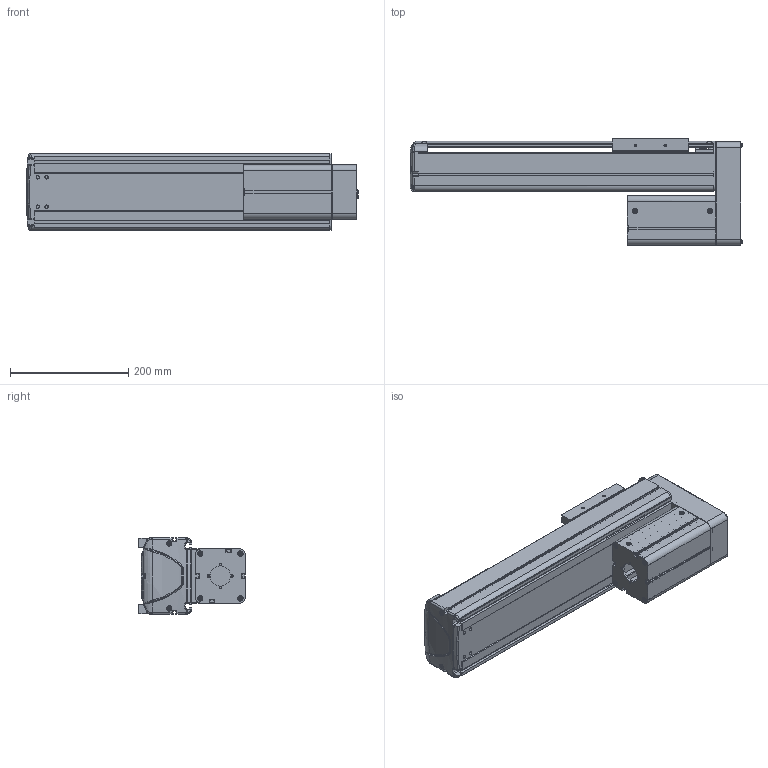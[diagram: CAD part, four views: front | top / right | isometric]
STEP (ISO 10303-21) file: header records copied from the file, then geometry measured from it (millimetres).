
FILE_DESCRIPTION((''),'2;1');
FILE_NAME('BE30E-UU-M_N-30_IGS_PRT','2017-06-17T',(' '),(''),'PRO/ENGINEER BY PARAMETRIC TECHNOLOGY CORPORATION, 2015030','PRO/ENGINEER BY PARAMETRIC TECHNOLOGY CORPORATION, 2015030','');
FILE_SCHEMA(('CONFIG_CONTROL_DESIGN'));
Length unit declared in the file: millimetre
Products named in the file (1): BE30E-UU-M_N-30_IGS_PRT
Bounding box: 561.9 x 180 x 130 mm (x, y, z)
Volume: 2172417.8 mm3; surface area: 950439.2 mm2
Topology: 2 solids, 103 shells, 1961 faces, 5262 edges, 3404 vertices
Faces by surface type: plane 986, cylinder 774, cone 107, torus 39, bspline 31, sphere 24
Entity records: 63241 total; most frequent: CARTESIAN_POINT 13368, DIRECTION 10533, ORIENTED_EDGE 10060, EDGE_CURVE 5224, AXIS2_PLACEMENT_3D 3674, VERTEX_POINT 3404, VECTOR 3185, LINE 3185
